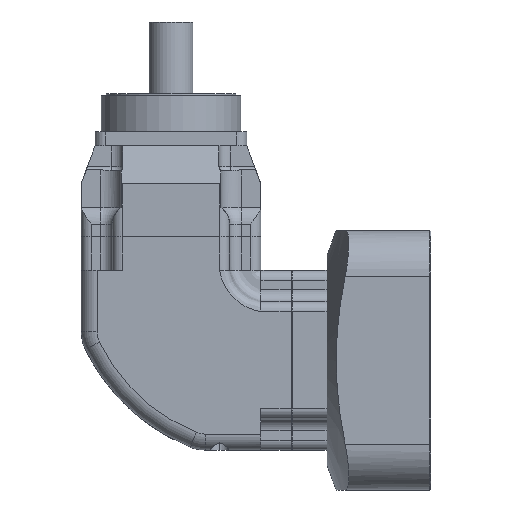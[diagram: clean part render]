
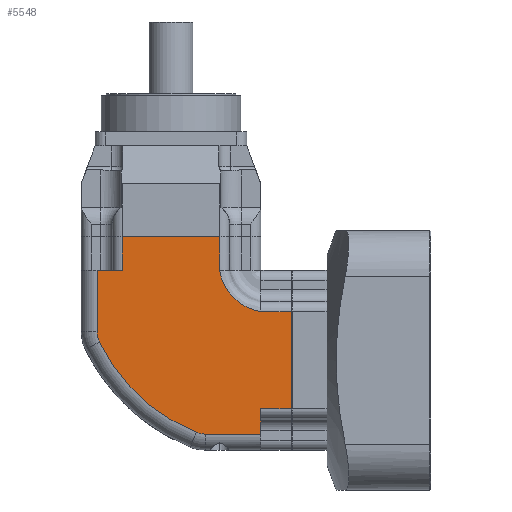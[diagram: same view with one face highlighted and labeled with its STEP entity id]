
A CAD part, left-side view. The second image highlights one B-rep face of the part: STEP entity #5548.
In plain terms, the highlighted planar face has unit normal (-1, 0, 0).
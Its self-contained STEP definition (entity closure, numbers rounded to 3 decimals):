
#13 = LINE ( 'NONE', #4475, #12890 ) ;
#207 = PLANE ( 'NONE',  #13494 ) ;
#410 = VERTEX_POINT ( 'NONE', #7869 ) ;
#418 = VECTOR ( 'NONE', #3953, 1000. ) ;
#586 = CARTESIAN_POINT ( 'NONE',  ( -45., -60.2, 0. ) ) ;
#995 = CARTESIAN_POINT ( 'NONE',  ( -45., -12.671, -36.134 ) ) ;
#1046 = VERTEX_POINT ( 'NONE', #12041 ) ;
#1113 = CARTESIAN_POINT ( 'NONE',  ( -45., 37., 14.325 ) ) ;
#1259 = VERTEX_POINT ( 'NONE', #995 ) ;
#1376 = LINE ( 'NONE', #6857, #7629 ) ;
#1436 = VECTOR ( 'NONE', #4855, 1000. ) ;
#1487 = VERTEX_POINT ( 'NONE', #4051 ) ;
#1526 = DIRECTION ( 'NONE',  ( 0., 0., -1. ) ) ;
#1650 = VERTEX_POINT ( 'NONE', #1113 ) ;
#2047 = VERTEX_POINT ( 'NONE', #5020 ) ;
#2106 = CIRCLE ( 'NONE', #10999, 92. ) ;
#2118 = EDGE_CURVE ( 'NONE', #1487, #1046, #13272, .T. ) ;
#2316 = DIRECTION ( 'NONE',  ( -1., 0., 0. ) ) ;
#2396 = DIRECTION ( 'NONE',  ( 0., -1., 0. ) ) ;
#2515 = DIRECTION ( 'NONE',  ( 0., -1., 0. ) ) ;
#2626 = VERTEX_POINT ( 'NONE', #5058 ) ;
#2638 = VERTEX_POINT ( 'NONE', #14048 ) ;
#2663 = ORIENTED_EDGE ( 'NONE', *, *, #14402, .T. ) ;
#2729 = VECTOR ( 'NONE', #10534, 1000. ) ;
#2920 = ORIENTED_EDGE ( 'NONE', *, *, #2118, .T. ) ;
#3179 = DIRECTION ( 'NONE',  ( 0., -1., 0. ) ) ;
#3775 = LINE ( 'NONE', #9485, #13728 ) ;
#3897 = CARTESIAN_POINT ( 'NONE',  ( -45., -65.5, -37. ) ) ;
#3928 = VECTOR ( 'NONE', #4934, 1000. ) ;
#3953 = DIRECTION ( 'NONE',  ( 0., 1., 0. ) ) ;
#4051 = CARTESIAN_POINT ( 'NONE',  ( -45., -24.355, 45. ) ) ;
#4394 = VERTEX_POINT ( 'NONE', #14303 ) ;
#4466 = CIRCLE ( 'NONE', #9141, 12. ) ;
#4475 = CARTESIAN_POINT ( 'NONE',  ( -45., -45., 0. ) ) ;
#4553 = DIRECTION ( 'NONE',  ( 0., -1., 0. ) ) ;
#4601 = VECTOR ( 'NONE', #10315, 1000. ) ;
#4621 = CARTESIAN_POINT ( 'NONE',  ( -45., 25., 14.325 ) ) ;
#4852 = VERTEX_POINT ( 'NONE', #7061 ) ;
#4855 = DIRECTION ( 'NONE',  ( 0., -1., 0. ) ) ;
#4877 = EDGE_CURVE ( 'NONE', #1487, #2638, #9284, .T. ) ;
#4880 = DIRECTION ( 'NONE',  ( 0., 0., -1. ) ) ;
#4934 = DIRECTION ( 'NONE',  ( 0., -1., 0. ) ) ;
#4951 = VECTOR ( 'NONE', #9176, 1000. ) ;
#5005 = CARTESIAN_POINT ( 'NONE',  ( -45., 45., 62. ) ) ;
#5020 = CARTESIAN_POINT ( 'NONE',  ( -45., -45., -37. ) ) ;
#5033 = EDGE_CURVE ( 'NONE', #13315, #2638, #8338, .T. ) ;
#5058 = CARTESIAN_POINT ( 'NONE',  ( -45., 37., 45. ) ) ;
#5126 = ORIENTED_EDGE ( 'NONE', *, *, #13224, .F. ) ;
#5148 = EDGE_CURVE ( 'NONE', #2626, #1650, #3775, .T. ) ;
#5306 = VERTEX_POINT ( 'NONE', #10872 ) ;
#5492 = DIRECTION ( 'NONE',  ( 0., 0., 1. ) ) ;
#5548 = ADVANCED_FACE ( 'NONE', ( #5839 ), #207, .T. ) ;
#5573 = EDGE_CURVE ( 'NONE', #5306, #410, #13589, .T. ) ;
#5600 = ORIENTED_EDGE ( 'NONE', *, *, #5985, .T. ) ;
#5624 = CARTESIAN_POINT ( 'NONE',  ( -45., 45., 0. ) ) ;
#5806 = CARTESIAN_POINT ( 'NONE',  ( -45., 45., 45. ) ) ;
#5839 = FACE_OUTER_BOUND ( 'NONE', #10411, .T. ) ;
#5891 = LINE ( 'NONE', #5806, #4951 ) ;
#5900 = CARTESIAN_POINT ( 'NONE',  ( -45., -49.029, 49.029 ) ) ;
#5985 = EDGE_CURVE ( 'NONE', #12248, #2047, #13926, .T. ) ;
#6010 = CARTESIAN_POINT ( 'NONE',  ( -45., -60.2, 24.355 ) ) ;
#6857 = CARTESIAN_POINT ( 'NONE',  ( -45., 24.355, 45. ) ) ;
#7061 = CARTESIAN_POINT ( 'NONE',  ( -45., 35.798, 9.09 ) ) ;
#7076 = DIRECTION ( 'NONE',  ( -1., 0., 0. ) ) ;
#7123 = DIRECTION ( 'NONE',  ( -1., 0., 0. ) ) ;
#7221 = CARTESIAN_POINT ( 'NONE',  ( -45., 24.355, 45. ) ) ;
#7256 = AXIS2_PLACEMENT_3D ( 'NONE', #4621, #8805, #4553 ) ;
#7398 = ORIENTED_EDGE ( 'NONE', *, *, #8732, .T. ) ;
#7629 = VECTOR ( 'NONE', #1526, 1000. ) ;
#7631 = AXIS2_PLACEMENT_3D ( 'NONE', #5900, #7123, #2515 ) ;
#7787 = EDGE_CURVE ( 'NONE', #410, #13315, #8465, .T. ) ;
#7808 = CARTESIAN_POINT ( 'NONE',  ( -45., -60.2, -24.355 ) ) ;
#7869 = CARTESIAN_POINT ( 'NONE',  ( -45., -60.2, -24.355 ) ) ;
#7990 = ORIENTED_EDGE ( 'NONE', *, *, #7787, .T. ) ;
#8164 = CARTESIAN_POINT ( 'NONE',  ( -45., -46.985, 49.227 ) ) ;
#8252 = EDGE_CURVE ( 'NONE', #4394, #10977, #1376, .T. ) ;
#8338 = LINE ( 'NONE', #13093, #418 ) ;
#8465 = LINE ( 'NONE', #586, #2729 ) ;
#8732 = EDGE_CURVE ( 'NONE', #4852, #1259, #2106, .T. ) ;
#8793 = ORIENTED_EDGE ( 'NONE', *, *, #5573, .T. ) ;
#8805 = DIRECTION ( 'NONE',  ( -1., 0., 0. ) ) ;
#9082 = ORIENTED_EDGE ( 'NONE', *, *, #4877, .F. ) ;
#9141 = AXIS2_PLACEMENT_3D ( 'NONE', #9852, #14307, #3179 ) ;
#9176 = DIRECTION ( 'NONE',  ( 0., -1., 0. ) ) ;
#9284 = CIRCLE ( 'NONE', #7631, 25. ) ;
#9446 = ORIENTED_EDGE ( 'NONE', *, *, #5033, .T. ) ;
#9461 = CARTESIAN_POINT ( 'NONE',  ( -45., -17.147, -37. ) ) ;
#9485 = CARTESIAN_POINT ( 'NONE',  ( -45., 37., 0. ) ) ;
#9852 = CARTESIAN_POINT ( 'NONE',  ( -45., -17.147, -25. ) ) ;
#9982 = CARTESIAN_POINT ( 'NONE',  ( -45., -24.355, 62. ) ) ;
#10185 = EDGE_CURVE ( 'NONE', #1650, #4852, #13555, .T. ) ;
#10315 = DIRECTION ( 'NONE',  ( 0., -1., 0. ) ) ;
#10411 = EDGE_LOOP ( 'NONE', ( #9446, #9082, #2920, #12464, #11650, #5126, #13097, #13716, #7398, #2663, #5600, #11800, #8793, #7990 ) ) ;
#10413 = EDGE_CURVE ( 'NONE', #4394, #1046, #10572, .T. ) ;
#10534 = DIRECTION ( 'NONE',  ( 0., 0., 1. ) ) ;
#10572 = LINE ( 'NONE', #5005, #1436 ) ;
#10669 = EDGE_CURVE ( 'NONE', #2047, #5306, #13, .T. ) ;
#10872 = CARTESIAN_POINT ( 'NONE',  ( -45., -45., -24.355 ) ) ;
#10977 = VERTEX_POINT ( 'NONE', #7221 ) ;
#10999 = AXIS2_PLACEMENT_3D ( 'NONE', #8164, #7076, #11542 ) ;
#11542 = DIRECTION ( 'NONE',  ( 0., -1., 0. ) ) ;
#11650 = ORIENTED_EDGE ( 'NONE', *, *, #8252, .T. ) ;
#11677 = VECTOR ( 'NONE', #13130, 1000. ) ;
#11800 = ORIENTED_EDGE ( 'NONE', *, *, #10669, .T. ) ;
#12041 = CARTESIAN_POINT ( 'NONE',  ( -45., -24.355, 62. ) ) ;
#12248 = VERTEX_POINT ( 'NONE', #9461 ) ;
#12464 = ORIENTED_EDGE ( 'NONE', *, *, #10413, .F. ) ;
#12890 = VECTOR ( 'NONE', #5492, 1000. ) ;
#13093 = CARTESIAN_POINT ( 'NONE',  ( -45., -45., 24.355 ) ) ;
#13097 = ORIENTED_EDGE ( 'NONE', *, *, #5148, .T. ) ;
#13130 = DIRECTION ( 'NONE',  ( 0., 0., 1. ) ) ;
#13224 = EDGE_CURVE ( 'NONE', #2626, #10977, #5891, .T. ) ;
#13272 = LINE ( 'NONE', #9982, #11677 ) ;
#13315 = VERTEX_POINT ( 'NONE', #6010 ) ;
#13494 = AXIS2_PLACEMENT_3D ( 'NONE', #5624, #2316, #2396 ) ;
#13555 = CIRCLE ( 'NONE', #7256, 12. ) ;
#13589 = LINE ( 'NONE', #7808, #4601 ) ;
#13716 = ORIENTED_EDGE ( 'NONE', *, *, #10185, .T. ) ;
#13728 = VECTOR ( 'NONE', #4880, 1000. ) ;
#13926 = LINE ( 'NONE', #3897, #3928 ) ;
#14048 = CARTESIAN_POINT ( 'NONE',  ( -45., -45., 24.355 ) ) ;
#14303 = CARTESIAN_POINT ( 'NONE',  ( -45., 24.355, 62. ) ) ;
#14307 = DIRECTION ( 'NONE',  ( -1., 0., 0. ) ) ;
#14402 = EDGE_CURVE ( 'NONE', #1259, #12248, #4466, .T. ) ;
